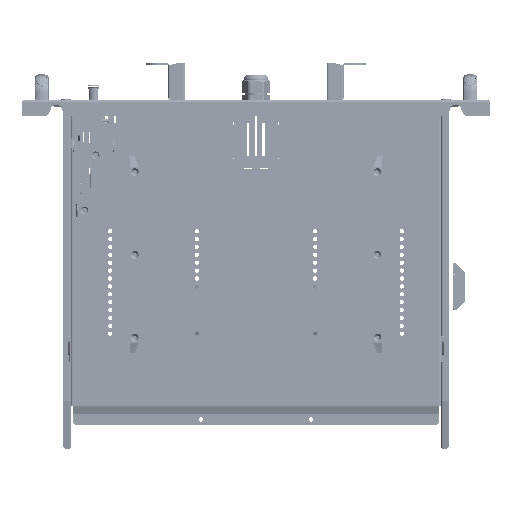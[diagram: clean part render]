
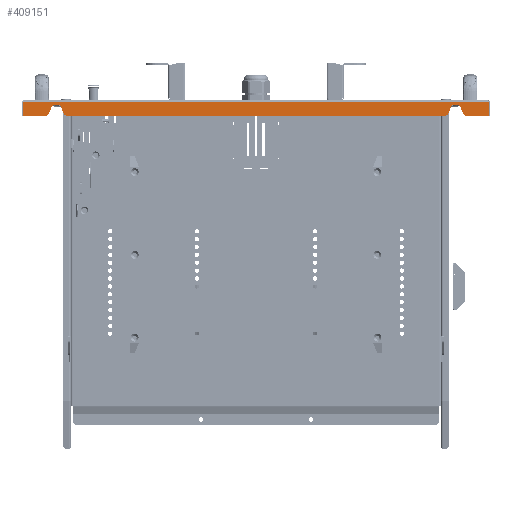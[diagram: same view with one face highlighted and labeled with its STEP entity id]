
A CAD part, front view. The second image highlights one B-rep face of the part: STEP entity #409151.
In plain terms, the highlighted planar face has unit normal (0, -1, 0).
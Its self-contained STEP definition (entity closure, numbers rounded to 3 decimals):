
#403366=CARTESIAN_POINT(' ',(1.6,0.,-2.5));
#403367=VERTEX_POINT(' ',#403366);
#403381=CARTESIAN_POINT(' ',(1.6,0.,-2.5));
#403386=DIRECTION(' ',(1.,0.,0.));
#403391=VECTOR(' ',#403386,1.);
#403396=LINE('',#403381,#403391);
#403401=CARTESIAN_POINT(' ',(592.4,0.,-2.5));
#403402=VERTEX_POINT(' ',#403401);
#403406=EDGE_CURVE(' ',#403367,#403402,#403396,.T.);
#408431=DIRECTION(' ',(-0.,-1.,0.));
#408436=CARTESIAN_POINT(' ',(1.6,0.,-20.));
#408441=DIRECTION(' ',(1.,-0.,0.));
#408446=AXIS2_PLACEMENT_3D(' ',#408436,#408431,#408441);
#408451=PLANE('NONE',#408446);
#408456=CARTESIAN_POINT(' ',(31.196,0.,-20.));
#408461=DIRECTION(' ',(0.809,0.,0.588));
#408466=VECTOR(' ',#408461,1.);
#408471=LINE('',#408456,#408466);
#408476=CARTESIAN_POINT(' ',(31.196,0.,-20.));
#408477=VERTEX_POINT(' ',#408476);
#408481=CARTESIAN_POINT(' ',(33.674,0.,-18.2));
#408482=VERTEX_POINT(' ',#408481);
#408486=EDGE_CURVE(' ',#408477,#408482,#408471,.T.);
#408491=ORIENTED_EDGE(' ',*,*,#408486,.T.);
#408496=CARTESIAN_POINT(' ',(33.674,0.,-18.2));
#408501=DIRECTION(' ',(0.391,0.,0.921));
#408506=VECTOR(' ',#408501,1.);
#408511=LINE('',#408496,#408506);
#408516=CARTESIAN_POINT(' ',(37.818,0.,-8.437));
#408517=VERTEX_POINT(' ',#408516);
#408521=EDGE_CURVE(' ',#408482,#408517,#408511,.T.);
#408526=ORIENTED_EDGE(' ',*,*,#408521,.T.);
#408531=CARTESIAN_POINT(' ',(41.5,0.,-10.));
#408536=DIRECTION(' ',(0.,1.,0.));
#408541=DIRECTION(' ',(-0.921,0.,0.391));
#408546=AXIS2_PLACEMENT_3D(' ',#408531,#408536,#408541);
#408551=CIRCLE('',#408546,4.);
#408556=CARTESIAN_POINT(' ',(41.5,0.,-6.));
#408557=VERTEX_POINT(' ',#408556);
#408561=EDGE_CURVE(' ',#408517,#408557,#408551,.T.);
#408566=ORIENTED_EDGE(' ',*,*,#408561,.T.);
#408571=CARTESIAN_POINT(' ',(41.5,0.,-6.));
#408576=DIRECTION(' ',(1.,0.,0.));
#408581=VECTOR(' ',#408576,1.);
#408586=LINE('',#408571,#408581);
#408591=CARTESIAN_POINT(' ',(45.5,0.,-6.));
#408592=VERTEX_POINT(' ',#408591);
#408596=EDGE_CURVE(' ',#408557,#408592,#408586,.T.);
#408601=ORIENTED_EDGE(' ',*,*,#408596,.T.);
#408606=CARTESIAN_POINT(' ',(45.501,0.,-9.999));
#408611=DIRECTION(' ',(0.,1.,0.));
#408616=DIRECTION(' ',(0.,0.,1.));
#408621=AXIS2_PLACEMENT_3D(' ',#408606,#408611,#408616);
#408626=CIRCLE('',#408621,3.999);
#408631=CARTESIAN_POINT(' ',(49.182,0.,-8.437));
#408632=VERTEX_POINT(' ',#408631);
#408636=EDGE_CURVE(' ',#408592,#408632,#408626,.T.);
#408641=ORIENTED_EDGE(' ',*,*,#408636,.T.);
#408646=CARTESIAN_POINT(' ',(49.182,0.,-8.437));
#408651=DIRECTION(' ',(0.391,0.,-0.921));
#408656=VECTOR(' ',#408651,1.);
#408661=LINE('',#408646,#408656);
#408666=CARTESIAN_POINT(' ',(53.326,0.,-18.2));
#408667=VERTEX_POINT(' ',#408666);
#408671=EDGE_CURVE(' ',#408632,#408667,#408661,.T.);
#408676=ORIENTED_EDGE(' ',*,*,#408671,.T.);
#408681=CARTESIAN_POINT(' ',(53.326,0.,-18.2));
#408686=DIRECTION(' ',(0.809,0.,-0.588));
#408691=VECTOR(' ',#408686,1.);
#408696=LINE('',#408681,#408691);
#408701=CARTESIAN_POINT(' ',(55.804,0.,-20.));
#408702=VERTEX_POINT(' ',#408701);
#408706=EDGE_CURVE(' ',#408667,#408702,#408696,.T.);
#408711=ORIENTED_EDGE(' ',*,*,#408706,.T.);
#408716=CARTESIAN_POINT(' ',(55.804,0.,-20.));
#408721=DIRECTION(' ',(1.,0.,0.));
#408726=VECTOR(' ',#408721,1.);
#408731=LINE('',#408716,#408726);
#408736=CARTESIAN_POINT(' ',(538.196,0.,-20.));
#408737=VERTEX_POINT(' ',#408736);
#408741=EDGE_CURVE(' ',#408702,#408737,#408731,.T.);
#408746=ORIENTED_EDGE(' ',*,*,#408741,.T.);
#408751=CARTESIAN_POINT(' ',(540.674,0.,-18.2));
#408756=DIRECTION(' ',(-0.809,0.,-0.588));
#408761=VECTOR(' ',#408756,1.);
#408766=LINE('',#408751,#408761);
#408771=CARTESIAN_POINT(' ',(540.674,0.,-18.2));
#408772=VERTEX_POINT(' ',#408771);
#408776=EDGE_CURVE(' ',#408772,#408737,#408766,.T.);
#408781=ORIENTED_EDGE(' ',*,*,#408776,.F.);
#408786=CARTESIAN_POINT(' ',(544.818,0.,-8.437));
#408791=DIRECTION(' ',(-0.391,0.,-0.921));
#408796=VECTOR(' ',#408791,1.);
#408801=LINE('',#408786,#408796);
#408806=CARTESIAN_POINT(' ',(544.818,0.,-8.437));
#408807=VERTEX_POINT(' ',#408806);
#408811=EDGE_CURVE(' ',#408807,#408772,#408801,.T.);
#408816=ORIENTED_EDGE(' ',*,*,#408811,.F.);
#408821=CARTESIAN_POINT(' ',(548.499,0.,-9.999));
#408826=DIRECTION(' ',(0.,-1.,0.));
#408831=DIRECTION(' ',(0.,0.,1.));
#408836=AXIS2_PLACEMENT_3D(' ',#408821,#408826,#408831);
#408841=CIRCLE('',#408836,3.999);
#408846=CARTESIAN_POINT(' ',(548.5,0.,-6.));
#408847=VERTEX_POINT(' ',#408846);
#408851=EDGE_CURVE(' ',#408847,#408807,#408841,.T.);
#408856=ORIENTED_EDGE(' ',*,*,#408851,.F.);
#408861=CARTESIAN_POINT(' ',(552.5,0.,-6.));
#408866=DIRECTION(' ',(-1.,0.,0.));
#408871=VECTOR(' ',#408866,1.);
#408876=LINE('',#408861,#408871);
#408881=CARTESIAN_POINT(' ',(552.5,0.,-6.));
#408882=VERTEX_POINT(' ',#408881);
#408886=EDGE_CURVE(' ',#408882,#408847,#408876,.T.);
#408891=ORIENTED_EDGE(' ',*,*,#408886,.F.);
#408896=CARTESIAN_POINT(' ',(552.5,0.,-9.999));
#408901=DIRECTION(' ',(0.,-1.,0.));
#408906=DIRECTION(' ',(0.921,0.,0.391));
#408911=AXIS2_PLACEMENT_3D(' ',#408896,#408901,#408906);
#408916=CIRCLE('',#408911,3.999);
#408921=CARTESIAN_POINT(' ',(556.182,0.,-8.437));
#408922=VERTEX_POINT(' ',#408921);
#408926=EDGE_CURVE(' ',#408922,#408882,#408916,.T.);
#408931=ORIENTED_EDGE(' ',*,*,#408926,.F.);
#408936=CARTESIAN_POINT(' ',(560.326,0.,-18.2));
#408941=DIRECTION(' ',(-0.391,0.,0.921));
#408946=VECTOR(' ',#408941,1.);
#408951=LINE('',#408936,#408946);
#408956=CARTESIAN_POINT(' ',(560.326,0.,-18.2));
#408957=VERTEX_POINT(' ',#408956);
#408961=EDGE_CURVE(' ',#408957,#408922,#408951,.T.);
#408966=ORIENTED_EDGE(' ',*,*,#408961,.F.);
#408971=CARTESIAN_POINT(' ',(562.804,0.,-20.));
#408976=DIRECTION(' ',(-0.809,0.,0.588));
#408981=VECTOR(' ',#408976,1.);
#408986=LINE('',#408971,#408981);
#408991=CARTESIAN_POINT(' ',(562.804,0.,-20.));
#408992=VERTEX_POINT(' ',#408991);
#408996=EDGE_CURVE(' ',#408992,#408957,#408986,.T.);
#409001=ORIENTED_EDGE(' ',*,*,#408996,.F.);
#409006=CARTESIAN_POINT(' ',(562.804,0.,-20.));
#409011=DIRECTION(' ',(1.,0.,0.));
#409016=VECTOR(' ',#409011,1.);
#409021=LINE('',#409006,#409016);
#409026=CARTESIAN_POINT(' ',(592.4,0.,-20.));
#409027=VERTEX_POINT(' ',#409026);
#409031=EDGE_CURVE(' ',#408992,#409027,#409021,.T.);
#409036=ORIENTED_EDGE(' ',*,*,#409031,.T.);
#409041=CARTESIAN_POINT(' ',(592.4,0.,-2.5));
#409046=DIRECTION(' ',(0.,0.,-1.));
#409051=VECTOR(' ',#409046,1.);
#409056=LINE('',#409041,#409051);
#409061=EDGE_CURVE(' ',#403402,#409027,#409056,.T.);
#409066=ORIENTED_EDGE(' ',*,*,#409061,.F.);
#409071=ORIENTED_EDGE(' ',*,*,#403406,.F.);
#409076=CARTESIAN_POINT(' ',(1.6,0.,-2.5));
#409081=DIRECTION(' ',(0.,0.,-1.));
#409086=VECTOR(' ',#409081,1.);
#409091=LINE('',#409076,#409086);
#409096=CARTESIAN_POINT(' ',(1.6,0.,-20.));
#409097=VERTEX_POINT(' ',#409096);
#409101=EDGE_CURVE(' ',#403367,#409097,#409091,.T.);
#409106=ORIENTED_EDGE(' ',*,*,#409101,.T.);
#409111=CARTESIAN_POINT(' ',(1.6,0.,-20.));
#409116=DIRECTION(' ',(1.,0.,0.));
#409121=VECTOR(' ',#409116,1.);
#409126=LINE('',#409111,#409121);
#409131=EDGE_CURVE(' ',#409097,#408477,#409126,.T.);
#409136=ORIENTED_EDGE(' ',*,*,#409131,.T.);
#409141=EDGE_LOOP(' ',(#408491,#408526,#408566,#408601,#408641,#408676,#408711,#408746,#408781,#408816,#408856,#408891,#408931,#408966,#409001,#409036,#409066,#409071,#409106,#409136));
#409146=FACE_OUTER_BOUND(' ',#409141,.T.);
#409151=ADVANCED_FACE('NONE',(#409146),#408451,.T.);
